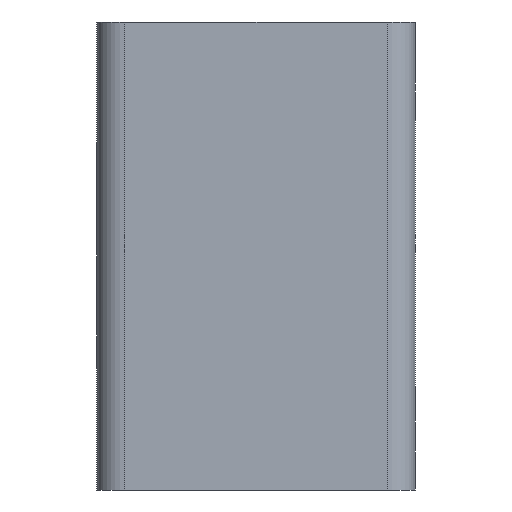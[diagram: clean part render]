
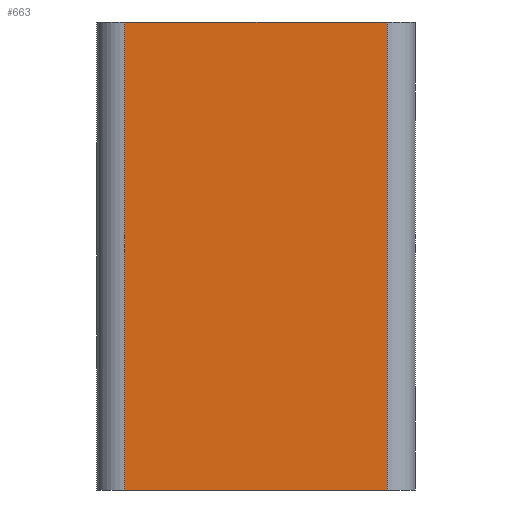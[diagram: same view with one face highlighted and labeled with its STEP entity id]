
A CAD part, left-side view. The second image highlights one B-rep face of the part: STEP entity #663.
In plain terms, the highlighted planar face has unit normal (-1, 0, 0).
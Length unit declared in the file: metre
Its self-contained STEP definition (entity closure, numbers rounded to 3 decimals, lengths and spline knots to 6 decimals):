
#116=ORIENTED_EDGE('',*,*,#271,.T.);
#117=ORIENTED_EDGE('',*,*,#272,.T.);
#118=ORIENTED_EDGE('',*,*,#273,.F.);
#119=ORIENTED_EDGE('',*,*,#274,.T.);
#271=EDGE_CURVE('',#348,#349,#419,.T.);
#272=EDGE_CURVE('',#349,#350,#420,.T.);
#273=EDGE_CURVE('',#351,#350,#421,.T.);
#274=EDGE_CURVE('',#351,#348,#422,.F.);
#348=VERTEX_POINT('',#1036);
#349=VERTEX_POINT('',#1037);
#350=VERTEX_POINT('',#1039);
#351=VERTEX_POINT('',#1041);
#419=LINE('',#1035,#483);
#420=LINE('',#1038,#484);
#421=LINE('',#1040,#485);
#422=LINE('',#1042,#486);
#483=VECTOR('',#836,1.);
#484=VECTOR('',#837,1.);
#485=VECTOR('',#838,1.);
#486=VECTOR('',#839,1.);
#522=EDGE_LOOP('',(#116,#117,#118,#119));
#584=FACE_BOUND('',#522,.T.);
#641=PLANE('',#714);
#663=ADVANCED_FACE('',(#584),#641,.F.);
#714=AXIS2_PLACEMENT_3D('',#1034,#834,#835);
#834=DIRECTION('',(1.,0.,0.));
#835=DIRECTION('',(0.,0.,-1.));
#836=DIRECTION('',(0.,1.,0.));
#837=DIRECTION('',(0.,0.,-1.));
#838=DIRECTION('',(0.,1.,0.));
#839=DIRECTION('',(0.,0.,-1.));
#1034=CARTESIAN_POINT('',(-0.062411,-0.139919,0.03));
#1035=CARTESIAN_POINT('',(-0.062411,-0.139919,0.04));
#1036=CARTESIAN_POINT('',(-0.062411,-0.168919,0.04));
#1037=CARTESIAN_POINT('',(-0.062411,-0.140919,0.04));
#1038=CARTESIAN_POINT('',(-0.062411,-0.140919,-0.01));
#1039=CARTESIAN_POINT('',(-0.062411,-0.140919,-0.01));
#1040=CARTESIAN_POINT('',(-0.062411,-0.139919,-0.01));
#1041=CARTESIAN_POINT('',(-0.062411,-0.168919,-0.01));
#1042=CARTESIAN_POINT('',(-0.062411,-0.168919,0.04));
